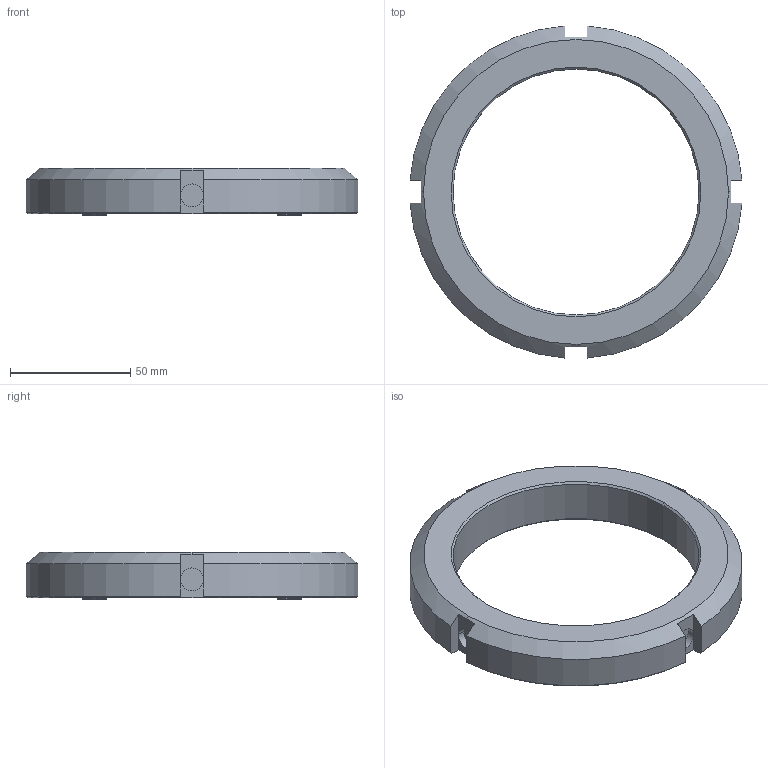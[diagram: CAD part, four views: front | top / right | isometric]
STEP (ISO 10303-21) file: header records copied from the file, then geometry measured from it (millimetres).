
FILE_DESCRIPTION (( 'STEP AP214' ), '1' );
FILE_NAME ('TLN 21.STEP', '2011-08-01T02:29:14', ( '' ), ( '' ), 'SwSTEP 2.0', 'SolidWorks 2010', '' );
FILE_SCHEMA (( 'AUTOMOTIVE_DESIGN' ));
Length unit declared in the file: inch
Products named in the file (3): TLN 21; 125 Pipe Plug
Assembly tree (5 placements, depth 2):
  TLN 21
    125 Pipe Plug  x4
    TLN 21
Bounding box: 137.8 x 137.8 x 19.84 mm (x, y, z)
Volume: 101187.7 mm3; surface area: 36144.5 mm2
Topology: 5 solids, 5 shells, 238 faces, 628 edges, 408 vertices
Faces by surface type: cone 122, plane 62, cylinder 42, bspline 12
Entity records: 8137 total; most frequent: CARTESIAN_POINT 5381, ORIENTED_EDGE 578, DIRECTION 514, EDGE_CURVE 289, AXIS2_PLACEMENT_3D 204, VERTEX_POINT 186, EDGE_LOOP 119, FACE_OUTER_BOUND 112
